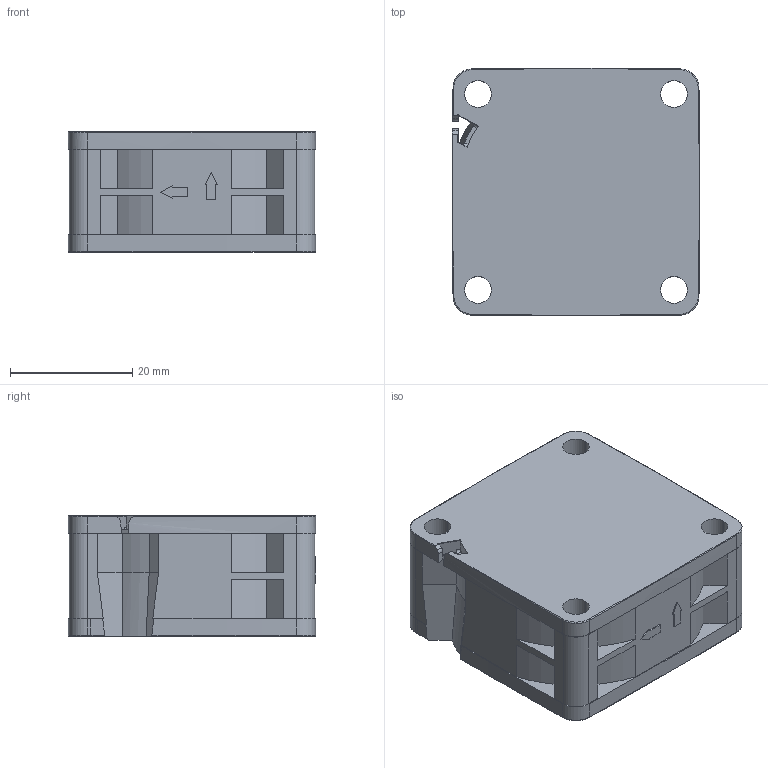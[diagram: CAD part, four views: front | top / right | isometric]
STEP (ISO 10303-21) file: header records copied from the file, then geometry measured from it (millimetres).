
FILE_DESCRIPTION((''),'2;1');
FILE_NAME('PRT1627','2026-08-11T',('Administrator'),(''),'PRO/ENGINEER BY PARAMETRIC TECHNOLOGY CORPORATION, 2009360','PRO/ENGINEER BY PARAMETRIC TECHNOLOGY CORPORATION, 2009360','');
FILE_SCHEMA(('CONFIG_CONTROL_DESIGN'));
Length unit declared in the file: millimetre
Products named in the file (1): PRT1627
Bounding box: 40.6 x 40.6 x 19.81 mm (x, y, z)
Volume: 29304.3 mm3; surface area: 7964.9 mm2
Topology: 1 solids, 1 shells, 174 faces, 484 edges, 319 vertices
Faces by surface type: plane 93, cylinder 57, bspline 12, torus 9, cone 3
Entity records: 6067 total; most frequent: CARTESIAN_POINT 1639, ORIENTED_EDGE 968, DIRECTION 844, EDGE_CURVE 484, VERTEX_POINT 319, VECTOR 282, LINE 282, AXIS2_PLACEMENT_3D 281
